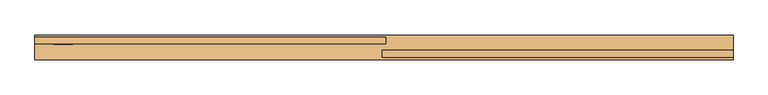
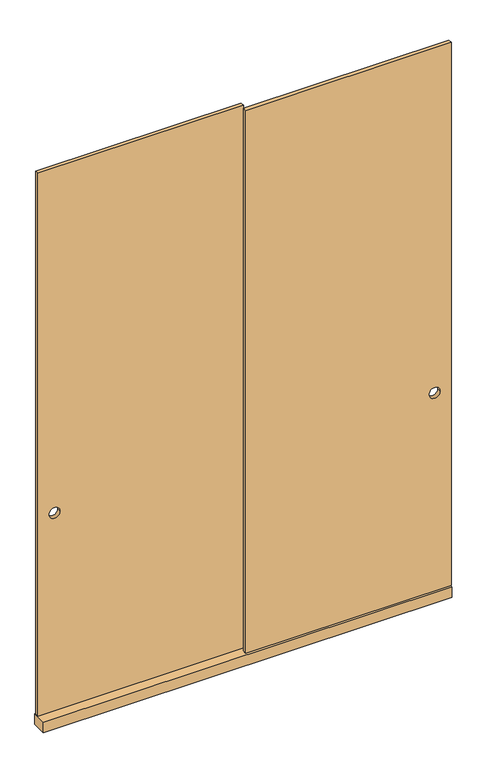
"""IFC4 building model written with IfcOpenShell, lengths in millimetres: door geometry, C4 Puerta corrediza placar 2 hojas : C4.1 PUERTA CORREDIZA PLACAR 2 HOJAS 185x260."""

from ifc_helpers import new_model, si_unit, point, frame, frame_2d, origin, origin_with_axes, place, context, project, spatial, polyline, circle_curve, trimmed, segment, composite_curve, outline, extrude, source, transform, mapped, element, save


def door_9b7d2ef3(model_context):
    return source(origin(), model_context, "Body", "SweptSolid", [
        extrude(outline(polyline([(925.0, -32.5), (-925.0, -32.5), (-925.0, 32.5), (925.0, 32.5), (925.0, -32.5)])), origin_with_axes(), (0.0, 0.0, 1.0), 50.0),
        extrude(outline(polyline([(2650.0, -5.0), (54.0, -5.0), (54.0, 925.0), (2650.0, 925.0), (2650.0, -5.0)]), holes=[composite_curve([segment(trimmed(circle_curve(frame_2d((1000.0, 850.0)), 25.0), [point((1000.0, 825.0))], [point((1000.0, 875.0))], True, "CARTESIAN"), True, "CONTINUOUS"), segment(trimmed(circle_curve(frame_2d((1000.0, 850.0)), 25.0), [point((1000.0, 875.0))], [point((1000.0, 825.0))], True, "CARTESIAN"), True, "CONTINUOUS")], self_intersect=False)]), frame((0.0, -26.5, 0.0), z_axis=(0.0, 1.0, 0.0), x_axis=(0.0, 0.0, 1.0)), (0.0, 0.0, 1.0), 18.0),
        extrude(outline(polyline([(2650.0, 5.0), (2650.0, -925.0), (54.0, -925.0), (54.0, 5.0), (2650.0, 5.0)]), holes=[composite_curve([segment(trimmed(circle_curve(frame_2d((1000.0, -850.0)), 25.0), [point((1000.0, -875.0))], [point((1000.0, -825.0))], True, "CARTESIAN"), True, "CONTINUOUS"), segment(trimmed(circle_curve(frame_2d((1000.0, -850.0)), 25.0), [point((1000.0, -825.0))], [point((1000.0, -875.0))], True, "CARTESIAN"), True, "CONTINUOUS")], self_intersect=False)]), frame((0.0, 8.5, 0.0), z_axis=(0.0, 1.0, 0.0), x_axis=(0.0, 0.0, 1.0)), (0.0, 0.0, 1.0), 18.0),
    ])


if __name__ == "__main__":
    model = new_model("IFC4")
    model_context = context("Model", 3, world=origin())
    ifc_project = project(units=[si_unit("LENGTHUNIT", "METRE", prefix="MILLI")], contexts=[model_context])
    site = spatial("IfcSite", under=ifc_project)
    building = spatial("IfcBuilding", under=site)
    placement = place(None, origin())
    door_shape = door_9b7d2ef3(model_context)
    element("IfcDoor", 1, ObjectType="C4 Puerta corrediza placar 2 hojas : C4.1 PUERTA CORREDIZA PLACAR 2 HOJAS 185x260", at=placement, inside=building, context=model_context, shape_type="MappedRepresentation", body=[
        mapped(door_shape, transform((0.0, 0.0, 0.0), x_axis=(1.0, 0.0, 0.0), y_axis=(0.0, 1.0, 0.0), z_axis=(0.0, 0.0, 1.0))),
    ])
    save(model, "model.ifc")
